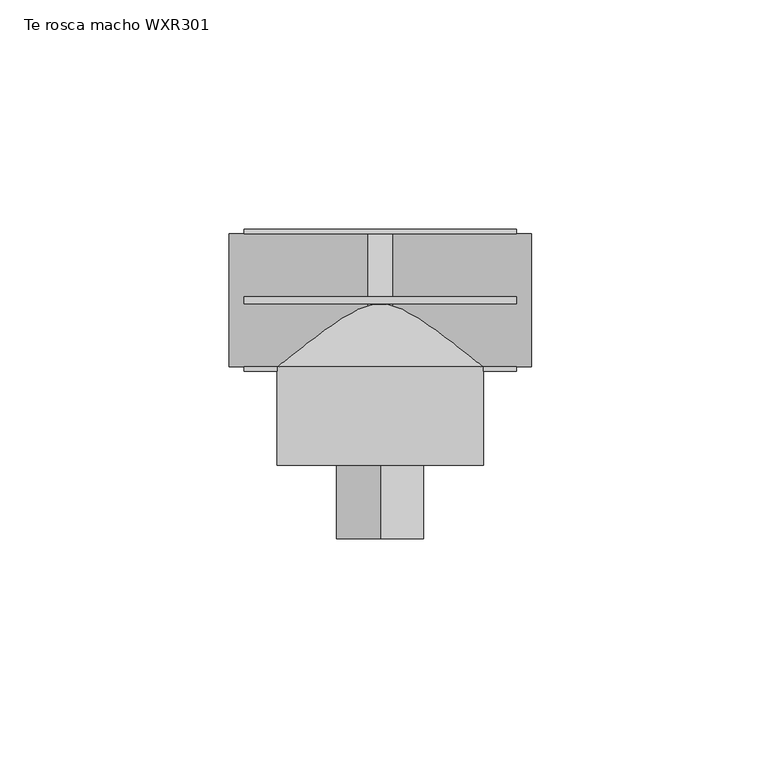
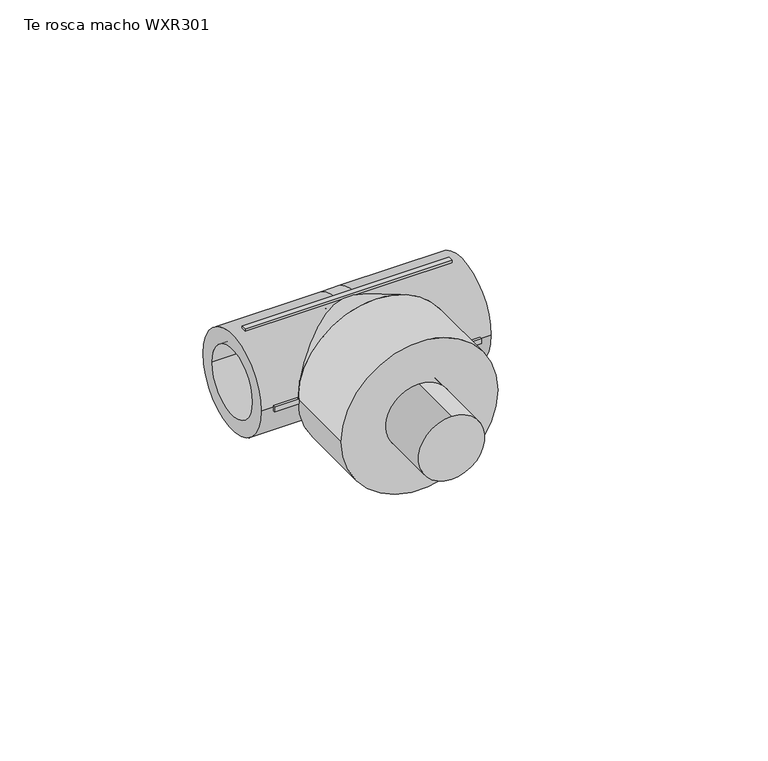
"""IFC4 building model written with IfcOpenShell, lengths in millimetres: pipe fitting geometry, EGB_VASEN_ PPR_Te rosca macho WXR301 : Te rosca macho WXR301."""

import ifcopenshell
import ifcopenshell.guid

model = None  # the IFC model being written
_history = None  # IfcOwnerHistory: only IFC2X3 demands one
_inside = {}  # id of a spatial element -> (the spatial element, [elements in it])
_under = {}  # id of a project, library or spatial element -> (it, [spatial elements below it])
_declared = {}  # id of a project -> (the project, [libraries it declares])
_typed = {}  # id of a type object -> (the type object, [elements of that type])
_made_of = {}  # id of a material, layer set ... -> (it, [elements and type objects made of it])


def new_model(schema):
    """Start an empty IFC model of exactly this schema.

    Asked for "IFC4X3", IfcOpenShell would pick the latest addendum, in which some entities
    have other attributes; the version numbers below select the first issue.
    IFC2X3 requires an IfcOwnerHistory on every rooted entity: one is made here for all.
    """
    global model, _history
    if schema == "IFC4X3":
        model = ifcopenshell.file(schema_version=(4, 3, 0, 0))
    else:
        model = ifcopenshell.file(schema=schema)
    _inside.clear()
    _under.clear()
    _declared.clear()
    _typed.clear()
    _made_of.clear()
    _history = None
    if model.schema == "IFC2X3":
        org = make("IfcOrganization", Name="unknown")
        user = make(
            "IfcPersonAndOrganization",
            ThePerson=make("IfcPerson", FamilyName="unknown"),
            TheOrganization=org,
        )
        app = make(
            "IfcApplication",
            ApplicationDeveloper=org,
            Version="unknown",
            ApplicationFullName="unknown",
            ApplicationIdentifier="unknown",
        )
        _history = make(
            "IfcOwnerHistory",
            OwningUser=user,
            OwningApplication=app,
            ChangeAction="ADDED",
            CreationDate=0,
        )
    return model


def make(cls, **values):
    """One entity of the class cls with the attributes given. An attribute that is None is left unset."""
    return model.create_entity(
        cls, **{name: value for name, value in values.items() if value is not None}
    )


def rooted(cls, **values):
    """An entity with a GlobalId (a new one), such as an element, a storey or a relation."""
    return make(cls, GlobalId=ifcopenshell.guid.new(), OwnerHistory=_history, **values)


def si_unit(unit_type, name, prefix=None):
    """IfcSIUnit, for example si_unit("LENGTHUNIT", "METRE", prefix="MILLI")."""
    return make("IfcSIUnit", UnitType=unit_type, Prefix=prefix, Name=name)


def assignment(units):
    """IfcUnitAssignment: the units of a project."""
    return None if units is None else make("IfcUnitAssignment", Units=units)


def point(xyz):
    """IfcCartesianPoint."""
    return None if xyz is None else make("IfcCartesianPoint", Coordinates=xyz)


def direction(xyz):
    """IfcDirection."""
    return None if xyz is None else make("IfcDirection", DirectionRatios=xyz)


def frame(location, z_axis=None, x_axis=None):
    """IfcAxis2Placement3D, a coordinate frame: its origin and axes. An axis left out is left unset."""
    return make(
        "IfcAxis2Placement3D",
        Location=point(location),
        Axis=direction(z_axis),
        RefDirection=direction(x_axis),
    )


def frame_2d(location, x_axis=None):
    """IfcAxis2Placement2D, a coordinate frame in the plane: its origin and x axis."""
    return make(
        "IfcAxis2Placement2D", Location=point(location), RefDirection=direction(x_axis)
    )


def origin():
    """The frame at (0, 0, 0) with its axes left unset."""
    return frame((0.0, 0.0, 0.0))


def origin_2d():
    """The frame at (0, 0) in the plane with its x axis left unset."""
    return frame_2d((0.0, 0.0))


def place(relative_to, where):
    """IfcLocalPlacement: puts the frame where relative to a parent placement (None: the world)."""
    return make(
        "IfcLocalPlacement", PlacementRelTo=relative_to, RelativePlacement=where
    )


def context(
    kind, dimensions, precision=None, world=None, true_north=None, identifier=None
):
    """IfcGeometricRepresentationContext, for example the 3D "Model" context."""
    return make(
        "IfcGeometricRepresentationContext",
        ContextIdentifier=identifier,
        ContextType=kind,
        CoordinateSpaceDimension=dimensions,
        Precision=precision,
        WorldCoordinateSystem=world,
        TrueNorth=true_north,
    )


def project(units=None, contexts=None):
    """IfcProject with its units and contexts."""
    return rooted(
        "IfcProject",
        Name="project",
        RepresentationContexts=contexts,
        UnitsInContext=assignment(units),
    )


def spatial(cls, under=None, at=None, **own):
    """A site, building, storey or space (cls), placed at a placement, below another one or the project."""
    s = rooted(cls, ObjectPlacement=at, **own)
    if under is not None:
        _under.setdefault(under.id(), (under, []))[1].append(s)
    return s


def polyline(points):
    """IfcPolyline through the points."""
    return make("IfcPolyline", Points=[point(p) for p in points])


def circle_curve(where, radius):
    """IfcCircle in the frame where."""
    return make("IfcCircle", Position=where, Radius=radius)


def trimmed(basis, trim1, trim2, sense, master):
    """IfcTrimmedCurve: the piece of a basis curve between two trims."""
    return make(
        "IfcTrimmedCurve",
        BasisCurve=basis,
        Trim1=trim1,
        Trim2=trim2,
        SenseAgreement=sense,
        MasterRepresentation=master,
    )


def segment(curve, same_sense, transition):
    """IfcCompositeCurveSegment."""
    return make(
        "IfcCompositeCurveSegment",
        Transition=transition,
        SameSense=same_sense,
        ParentCurve=curve,
    )


def composite_curve(segments, self_intersect=None):
    """IfcCompositeCurve: segments joined end to end."""
    return make("IfcCompositeCurve", Segments=segments, SelfIntersect=self_intersect)


def outline(outer, holes=None, kind="AREA"):
    """IfcArbitraryClosedProfileDef: a profile drawn as a closed curve; with holes, ...WithVoids."""
    if holes is None:
        return make("IfcArbitraryClosedProfileDef", ProfileType=kind, OuterCurve=outer)
    return make(
        "IfcArbitraryProfileDefWithVoids",
        ProfileType=kind,
        OuterCurve=outer,
        InnerCurves=holes,
    )


def extrude(swept, where, along, depth):
    """IfcExtrudedAreaSolid: the profile swept, set in the frame where, extruded along a direction by depth."""
    return make(
        "IfcExtrudedAreaSolid",
        SweptArea=swept,
        Position=where,
        ExtrudedDirection=direction(along),
        Depth=depth,
    )


def shape(context_of_items, identifier, shape_type, items):
    """IfcShapeRepresentation: the items that make up one representation, for example the "Body"."""
    return make(
        "IfcShapeRepresentation",
        ContextOfItems=context_of_items,
        RepresentationIdentifier=identifier,
        RepresentationType=shape_type,
        Items=items,
    )


def source(mapping_origin, context_of_items, identifier, shape_type, items):
    """IfcRepresentationMap: a shape defined once, which mapped items show again and again."""
    return make(
        "IfcRepresentationMap",
        MappingOrigin=mapping_origin,
        MappedRepresentation=shape(context_of_items, identifier, shape_type, items),
    )


def transform(
    local_origin,
    x_axis=None,
    y_axis=None,
    z_axis=None,
    scale=None,
    scale2=None,
    scale3=None,
    uniform=True,
):
    """IfcCartesianTransformationOperator3D, or its non-uniform kind. x_axis, y_axis, z_axis: its Axis1, 2, 3."""
    if uniform:
        return make(
            "IfcCartesianTransformationOperator3D",
            Axis1=direction(x_axis),
            Axis2=direction(y_axis),
            LocalOrigin=point(local_origin),
            Scale=scale,
            Axis3=direction(z_axis),
        )
    return make(
        "IfcCartesianTransformationOperator3DnonUniform",
        Axis1=direction(x_axis),
        Axis2=direction(y_axis),
        LocalOrigin=point(local_origin),
        Scale=scale,
        Axis3=direction(z_axis),
        Scale2=scale2,
        Scale3=scale3,
    )


def mapped(mapping_source, mapping_target):
    """IfcMappedItem: shows the shape of a source again, moved by a transform."""
    return make(
        "IfcMappedItem", MappingSource=mapping_source, MappingTarget=mapping_target
    )


def made_of(thing, what):
    """Note that an element or type object is made of a material, layer set ...; save() writes the relation."""
    if what is not None:
        _made_of.setdefault(what.id(), (what, []))[1].append(thing)
    return thing


def element(
    cls,
    number,
    at=None,
    inside=None,
    cuts=None,
    type_object=None,
    material=None,
    context=None,
    identifier="Body",
    shape_type=None,
    held_by="IfcProductDefinitionShape",
    body=None,
    shapes=None,
    **own,
):
    """One element of the class cls, such as IfcWall. Its Tag is "e" and its number.

    at: its placement. inside: the storey or other place that contains it. cuts: it is an
    opening in that element (IfcRelVoidsElement). A single representation is given by context,
    identifier, shape_type and body (its items); several are given by shapes. held_by: the class
    of the entity that holds the representations. save() writes the other relations.
    """
    e = rooted(cls, Tag="e%d" % number, ObjectPlacement=at, **own)
    if body is not None:
        shapes = [shape(context, identifier, shape_type, body)]
    if shapes is not None:
        e.Representation = make(held_by, Representations=shapes)
    if inside is not None:
        _inside.setdefault(inside.id(), (inside, []))[1].append(e)
    if cuts is not None:
        rooted(
            "IfcRelVoidsElement", RelatingBuildingElement=cuts, RelatedOpeningElement=e
        )
    if type_object is not None:
        _typed.setdefault(type_object.id(), (type_object, []))[1].append(e)
    return made_of(e, material)


def aggregate(whole, parts):
    """IfcRelAggregates: a whole, such as a stair, and the parts it consists of."""
    return rooted("IfcRelAggregates", RelatingObject=whole, RelatedObjects=parts)


def save(model, path):
    """Write the relations noted so far, then the file.

    IfcRelAggregates (storeys below a building ...), IfcRelContainedInSpatialStructure (elements
    in a storey), IfcRelDefinesByType, IfcRelAssociatesMaterial and IfcRelDeclares: one each for
    every whole, place, type object, material and project.
    """
    for whole, parts in _under.values():
        aggregate(whole, parts)
    for where, things in _inside.values():
        rooted(
            "IfcRelContainedInSpatialStructure",
            RelatedElements=things,
            RelatingStructure=where,
        )
    for kind, things in _typed.values():
        rooted("IfcRelDefinesByType", RelatedObjects=things, RelatingType=kind)
    for what, things in _made_of.values():
        rooted("IfcRelAssociatesMaterial", RelatedObjects=things, RelatingMaterial=what)
    for by, libraries in _declared.values():
        rooted("IfcRelDeclares", RelatingContext=by, RelatedDefinitions=libraries)
    model.write(path)


def plane_surface(at):
    """IfcPlane: the flat surface through the origin of the frame at, square to its z axis."""
    return make("IfcPlane", Position=at)


def cylinder_surface(at, radius):
    """IfcCylindricalSurface: all points at the distance radius from the z axis of the frame at."""
    return make("IfcCylindricalSurface", Position=at, Radius=radius)


def revolved_surface(curve, axis_point, axis_direction):
    """IfcSurfaceOfRevolution: the curve turned about the line through axis_point along axis_direction."""
    return make(
        "IfcSurfaceOfRevolution",
        SweptCurve=make("IfcArbitraryOpenProfileDef", ProfileType="CURVE", Curve=curve),
        AxisPosition=make("IfcAxis1Placement", Location=point(axis_point), Axis=direction(axis_direction)),
    )


def advanced_brep(points, edges, surfaces, faces):
    """IfcAdvancedBrep: a solid bounded by faces that lie on surfaces and meet in shared edges.

    An edge is (start, end): straight between two places in points (the first is 0);
    or (start, end, curve); or (start, end, curve, False) where it runs against its curve.
    A face is (place in surfaces, loops), or (place, loops, False) where it looks against
    its surface's normal. A loop lists edges by number (the first is 1), with a minus sign
    where the edge is run from its end to its start. The first loop is the outer one.
    """
    corners = [point(p) for p in points]
    vertices = [make("IfcVertexPoint", VertexGeometry=c) for c in corners]
    made = []
    for start, end, *more in edges:
        made.append(
            make(
                "IfcEdgeCurve",
                EdgeStart=vertices[start],
                EdgeEnd=vertices[end],
                EdgeGeometry=more[0] if more else make("IfcPolyline", Points=[corners[start], corners[end]]),
                SameSense=more[1] if len(more) > 1 else True,
            )
        )
    hull = []
    for where, loops, *sense in faces:
        bounds = []
        for j, loop in enumerate(loops):
            ring = [make("IfcOrientedEdge", EdgeElement=made[abs(k) - 1], Orientation=k > 0) for k in loop]
            bounds.append(
                make(
                    "IfcFaceOuterBound" if j == 0 else "IfcFaceBound",
                    Bound=make("IfcEdgeLoop", EdgeList=ring),
                    Orientation=True,
                )
            )
        hull.append(make("IfcAdvancedFace", Bounds=bounds, FaceSurface=surfaces[where], SameSense=sense[0] if sense else True))
    return make("IfcAdvancedBrep", Outer=make("IfcClosedShell", CfsFaces=hull))


def te_rosca_macho_wxr301_87aaf23e(model_context):
    return source(origin(), model_context, "Body", "SolidModel", [
        extrude(outline(composite_curve([segment(trimmed(circle_curve(origin_2d(), 9.525), [point((-9.525, 0.0))], [point((9.525, 0.0))], False, "CARTESIAN"), True, "CONTINUOUS"), segment(trimmed(circle_curve(origin_2d(), 9.525), [point((9.525, 0.0))], [point((-9.525, 0.0))], False, "CARTESIAN"), True, "CONTINUOUS")], self_intersect=False)), frame((0.0, -52.0, 0.0), z_axis=(0.0, 1.0, 0.0), x_axis=(0.0, 0.0, 1.0)), (0.0, 0.0, 1.0), 36.5),
        advanced_brep(
        [(2.64, -10.0, 0.0), (2.64, 10.0, 0.0), (-2.64, 10.0, 0.0), (-2.64, -10.0, 0.0), (-2.64, 14.5, 0.0), (2.64, 14.5, 0.0), (2.64, -14.5, 0.0), (-2.64, -14.5, 0.0), (33.0, -14.5, 0.0), (33.0, 14.5, 0.0), (33.0, -10.0, 0.0), (33.0, 10.0, 0.0), (-33.0, -14.5, 0.0), (-33.0, 14.5, 0.0), (-33.0, -10.0, 0.0), (-33.0, 10.0, 0.0)],
        [
            (0, 1, circle_curve(frame((2.64, 0.0, 0.0), z_axis=(1.0, 0.0, 0.0), x_axis=(0.0, 1.0, 0.0)), 10.0)),
            (1, 0, circle_curve(frame((2.64, 0.0, 0.0), z_axis=(1.0, 0.0, 0.0), x_axis=(0.0, 1.0, 0.0)), 10.0)),
            (2, 3, circle_curve(frame((-2.64, 0.0, 0.0), z_axis=(-1.0, 0.0, 0.0), x_axis=(0.0, 1.0, 0.0)), 10.0)),
            (3, 2, circle_curve(frame((-2.64, 0.0, 0.0), z_axis=(-1.0, 0.0, 0.0), x_axis=(0.0, 1.0, 0.0)), 10.0)),
            (4, 5),
            (5, 6, circle_curve(frame((2.64, 0.0, 0.0), z_axis=(-1.0, 0.0, 0.0), x_axis=(0.0, 0.0, -1.0)), 14.5)),
            (6, 7),
            (7, 4, circle_curve(frame((-2.64, 0.0, 0.0), z_axis=(1.0, 0.0, 0.0), x_axis=(0.0, 0.0, -1.0)), 14.5)),
            (4, 7, circle_curve(frame((-2.64, 0.0, 0.0), z_axis=(1.0, 0.0, 0.0), x_axis=(0.0, 0.0, 1.0)), 14.5)),
            (6, 5, circle_curve(frame((2.64, 0.0, 0.0), z_axis=(-1.0, 0.0, 0.0), x_axis=(0.0, 0.0, 1.0)), 14.5)),
            (8, 9, circle_curve(frame((33.0, 0.0, 0.0), z_axis=(1.0, 0.0, 0.0), x_axis=(0.0, 1.0, 0.0)), 14.5)),
            (9, 8, circle_curve(frame((33.0, 0.0, 0.0), z_axis=(1.0, 0.0, 0.0), x_axis=(0.0, 1.0, 0.0)), 14.5)),
            (10, 11, circle_curve(frame((33.0, 0.0, 0.0), z_axis=(-1.0, 0.0, 0.0), x_axis=(0.0, 1.0, 0.0)), 10.0)),
            (11, 10, circle_curve(frame((33.0, 0.0, 0.0), z_axis=(-1.0, 0.0, 0.0), x_axis=(0.0, 1.0, 0.0)), 10.0)),
            (9, 5),
            (6, 8),
            (11, 1),
            (0, 10),
            (12, 13, circle_curve(frame((-33.0, 0.0, 0.0), z_axis=(-1.0, 0.0, 0.0), x_axis=(0.0, 1.0, 0.0)), 14.5)),
            (13, 12, circle_curve(frame((-33.0, 0.0, 0.0), z_axis=(-1.0, 0.0, 0.0), x_axis=(0.0, 1.0, 0.0)), 14.5)),
            (14, 15, circle_curve(frame((-33.0, 0.0, 0.0), z_axis=(1.0, 0.0, 0.0), x_axis=(0.0, 1.0, 0.0)), 10.0)),
            (15, 14, circle_curve(frame((-33.0, 0.0, 0.0), z_axis=(1.0, 0.0, 0.0), x_axis=(0.0, 1.0, 0.0)), 10.0)),
            (12, 7),
            (4, 13),
            (14, 3),
            (2, 15),
        ],
        [
            plane_surface(frame((2.64, 0.0, 0.0), z_axis=(1.0, 0.0, 0.0), x_axis=(0.0, 0.0, -1.0))),
            plane_surface(frame((-2.64, 0.0, 0.0), z_axis=(-1.0, 0.0, 0.0), x_axis=(0.0, 0.0, -1.0))),
            cylinder_surface(frame((-2.64, 0.0, 0.0), z_axis=(1.0, 0.0, 0.0), x_axis=(0.0, 0.0, -1.0)), 14.5),
            cylinder_surface(frame((-2.64, 0.0, 0.0), z_axis=(1.0, 0.0, 0.0), x_axis=(0.0, 0.0, 1.0)), 14.5),
            plane_surface(frame((33.0, 0.0, 0.0), z_axis=(1.0, 0.0, 0.0), x_axis=(0.0, 0.0, 1.0))),
            cylinder_surface(frame((2.64, 0.0, 0.0), z_axis=(-1.0, 0.0, 0.0), x_axis=(0.0, 1.0, 0.0)), 14.5),
            revolved_surface(polyline([(33.0, 10.0, 0.0), (2.64, 10.0, 0.0)]), (2.64, 0.0, 0.0), (1.0, 0.0, 0.0)),
            plane_surface(frame((-33.0, 0.0, 0.0), z_axis=(-1.0, 0.0, 0.0), x_axis=(0.0, 0.0, 1.0))),
            cylinder_surface(frame((-33.0, 0.0, 0.0), z_axis=(-1.0, 0.0, 0.0), x_axis=(0.0, 1.0, 0.0)), 14.5),
            revolved_surface(polyline([(-2.6400000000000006, 10.0, 0.0), (-33.0, 10.0, 0.0)]), (-33.0, 0.0, 0.0), (1.0, 0.0, 0.0)),
        ],
        [
            (0, [[1, 2]]),
            (1, [[3, 4]]),
            (2, [[5, 6, 7, 8]]),
            (3, [[-5, 9, -7, 10]]),
            (4, [[11, 12], [13, 14]]),
            (5, [[-12, 15, -10, 16]]),
            (5, [[-11, -16, -6, -15]]),
            (6, [[-14, 17, -1, 18]]),
            (6, [[-13, -18, -2, -17]]),
            (7, [[19, 20], [21, 22]]),
            (8, [[-19, 23, -9, 24]]),
            (8, [[-20, -24, -8, -23]]),
            (9, [[-21, 25, -3, 26]]),
            (9, [[-22, -26, -4, -25]]),
        ],
    ),
        extrude(outline(composite_curve([segment(trimmed(circle_curve(origin_2d(), 22.5), [point((0.0, 22.5))], [point((0.0, -22.5))], False, "CARTESIAN"), True, "CONTINUOUS"), segment(trimmed(circle_curve(origin_2d(), 22.5), [point((0.0, -22.5))], [point((0.0, 22.5))], False, "CARTESIAN"), True, "CONTINUOUS")], self_intersect=False), holes=[composite_curve([segment(trimmed(circle_curve(origin_2d(), 9.525), [point((0.0, 9.525))], [point((0.0, -9.525))], True, "CARTESIAN"), True, "CONTINUOUS"), segment(trimmed(circle_curve(origin_2d(), 9.525), [point((0.0, -9.525))], [point((0.0, 9.525))], True, "CARTESIAN"), True, "CONTINUOUS")], self_intersect=False)]), frame((0.0, -36.0, 0.0), z_axis=(0.0, 1.0, 0.0), x_axis=(0.0, 0.0, 1.0)), (0.0, 0.0, 1.0), 21.5),
        advanced_brep(
        [(14.5, 0.0, 0.0), (-14.5, 0.0, 0.0), (22.5, -14.5, 0.0), (-22.5, -14.5, 0.0)],
        [
            (0, 1, circle_curve(frame((0.0, 0.0, 0.0), z_axis=(0.0, 1.0, 0.0), x_axis=(1.0, 0.0, 0.0)), 14.5)),
            (1, 0, circle_curve(frame((0.0, 0.0, 0.0), z_axis=(0.0, 1.0, 0.0), x_axis=(-1.0, 0.0, 0.0)), 14.5)),
            (2, 3, circle_curve(frame((0.0, -14.5, 0.0), z_axis=(0.0, -1.0, 0.0), x_axis=(-1.0, 0.0, 0.0)), 22.5)),
            (3, 2, circle_curve(frame((0.0, -14.5, 0.0), z_axis=(0.0, -1.0, 0.0), x_axis=(1.0, 0.0, 0.0)), 22.5)),
            (3, 1),
            (0, 2),
        ],
        [
            plane_surface(frame((0.0, 0.0, 0.0), z_axis=(0.0, 1.0, 0.0), x_axis=(0.0, 0.0, -1.0))),
            plane_surface(frame((0.0, -14.5, 0.0), z_axis=(0.0, -1.0, 0.0), x_axis=(0.0, 0.0, -1.0))),
            revolved_surface(polyline([(14.500000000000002, 0.0, 0.0), (22.5, -14.5, 0.0)]), (0.0, 26.28125, 0.0), (0.0, -1.0, 0.0)),
            revolved_surface(polyline([(-14.500000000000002, 0.0, 0.0), (-22.5, -14.5, 0.0)]), (0.0, 26.28125, 0.0), (0.0, -1.0, 0.0)),
        ],
        [
            (0, [[1, 2]]),
            (1, [[3, 4]]),
            (2, [[-4, 5, -1, 6]]),
            (3, [[-3, -6, -2, -5]]),
        ],
    ),
        extrude(outline(polyline([(29.7, 0.75), (29.7, -0.75), (-29.7, -0.75), (-29.7, 0.75), (29.7, 0.75)])), frame((0.0, 0.0, 13.5), z_axis=(0.0, 0.0, 1.0), x_axis=(1.0, 0.0, 0.0)), (0.0, 0.0, 1.0), 2.0),
        extrude(outline(polyline([(29.7, 0.75), (29.7, -0.75), (-29.7, -0.75), (-29.7, 0.75), (29.7, 0.75)])), frame((0.0, 0.0, -15.5), z_axis=(0.0, 0.0, 1.0), x_axis=(1.0, 0.0, 0.0)), (0.0, 0.0, 1.0), 2.0),
        extrude(outline(polyline([(29.7, 15.5), (29.7, 13.5), (-29.7, 13.5), (-29.7, 15.5), (29.7, 15.5)])), frame((0.0, 0.0, -0.75), z_axis=(0.0, 0.0, 1.0), x_axis=(1.0, 0.0, 0.0)), (0.0, 0.0, 1.0), 1.5),
        extrude(outline(polyline([(29.7, -13.5), (29.7, -15.5), (-29.7, -15.5), (-29.7, -13.5), (29.7, -13.5)])), frame((0.0, 0.0, -0.75), z_axis=(0.0, 0.0, 1.0), x_axis=(1.0, 0.0, 0.0)), (0.0, 0.0, 1.0), 1.5),
    ])


if __name__ == "__main__":
    model = new_model("IFC4")
    model_context = context("Model", 3, world=origin())
    ifc_project = project(units=[si_unit("LENGTHUNIT", "METRE", prefix="MILLI")], contexts=[model_context])
    site = spatial("IfcSite", under=ifc_project)
    building = spatial("IfcBuilding", under=site)
    placement = place(None, origin())
    te_rosca_macho_wxr301_shape = te_rosca_macho_wxr301_87aaf23e(model_context)
    element("IfcPipeFitting", 1, ObjectType="EGB_VASEN_ PPR_Te rosca macho WXR301 : Te rosca macho WXR301", at=placement, inside=building, context=model_context, shape_type="MappedRepresentation", body=[
        mapped(te_rosca_macho_wxr301_shape, transform((0.0, 0.0, 0.0), x_axis=(1.0, 0.0, 0.0), y_axis=(0.0, 1.0, 0.0), z_axis=(0.0, 0.0, 1.0))),
    ])
    save(model, "model.ifc")
